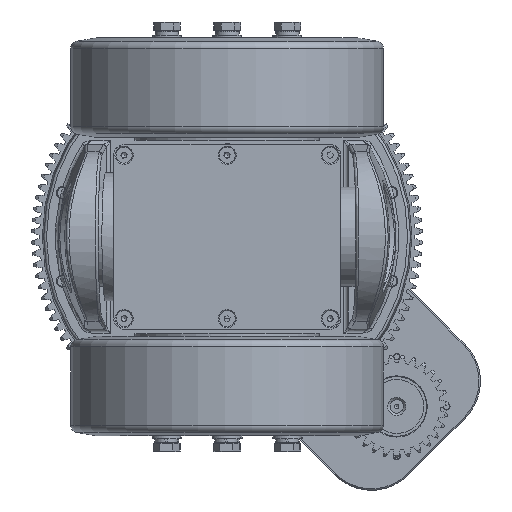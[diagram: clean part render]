
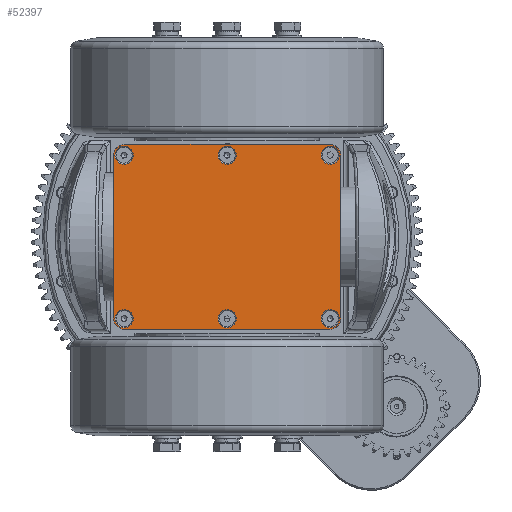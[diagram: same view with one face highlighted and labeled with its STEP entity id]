
A CAD part, front view. The second image highlights one B-rep face of the part: STEP entity #52397.
In plain terms, the highlighted planar face has unit normal (0, -1, 0).
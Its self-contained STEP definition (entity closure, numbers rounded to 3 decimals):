
#370 = DIRECTION ( 'NONE',  ( -1., 0., 0. ) ) ;
#3953 = VECTOR ( 'NONE', #96673, 1000. ) ;
#4928 = CIRCLE ( 'NONE', #24916, 8. ) ;
#5659 = DIRECTION ( 'NONE',  ( 0., -1., 0. ) ) ;
#7559 = FACE_BOUND ( 'NONE', #102786, .T. ) ;
#7885 = ORIENTED_EDGE ( 'NONE', *, *, #106761, .F. ) ;
#8068 = CARTESIAN_POINT ( 'NONE',  ( -152.441, -194., -122. ) ) ;
#9573 = CARTESIAN_POINT ( 'NONE',  ( -151.341, -194., -122.5 ) ) ;
#9729 = CARTESIAN_POINT ( 'NONE',  ( -6.341, -194., -7.5 ) ) ;
#9929 = ORIENTED_EDGE ( 'NONE', *, *, #74789, .F. ) ;
#10204 = DIRECTION ( 'NONE',  ( 0., -1., 0. ) ) ;
#10257 = VERTEX_POINT ( 'NONE', #19419 ) ;
#10969 = EDGE_LOOP ( 'NONE', ( #7885 ) ) ;
#11425 = AXIS2_PLACEMENT_3D ( 'NONE', #67086, #10204, #112444 ) ;
#11621 = EDGE_CURVE ( 'NONE', #39625, #39625, #52633, .T. ) ;
#11915 = CARTESIAN_POINT ( 'NONE',  ( -144.441, -194., -130. ) ) ;
#11933 = FACE_BOUND ( 'NONE', #40123, .T. ) ;
#12195 = ORIENTED_EDGE ( 'NONE', *, *, #27708, .T. ) ;
#12751 = CARTESIAN_POINT ( 'NONE',  ( -78.841, -194., -7.5 ) ) ;
#13074 = EDGE_CURVE ( 'NONE', #45317, #68107, #30176, .T. ) ;
#13728 = EDGE_CURVE ( 'NONE', #10257, #86899, #41633, .T. ) ;
#14366 = CARTESIAN_POINT ( 'NONE',  ( -78.841, -194., -122.5 ) ) ;
#14945 = LINE ( 'NONE', #11915, #54368 ) ;
#15452 = DIRECTION ( 'NONE',  ( 0., -1., 0. ) ) ;
#15874 = AXIS2_PLACEMENT_3D ( 'NONE', #63758, #100655, #73961 ) ;
#17786 = EDGE_CURVE ( 'NONE', #102041, #102041, #119434, .T. ) ;
#18503 = VERTEX_POINT ( 'NONE', #12751 ) ;
#18700 = AXIS2_PLACEMENT_3D ( 'NONE', #27651, #110446, #101571 ) ;
#19273 = ORIENTED_EDGE ( 'NONE', *, *, #13074, .T. ) ;
#19419 = CARTESIAN_POINT ( 'NONE',  ( -0.441, -194., -130. ) ) ;
#24916 = AXIS2_PLACEMENT_3D ( 'NONE', #87920, #88322, #61494 ) ;
#26259 = CARTESIAN_POINT ( 'NONE',  ( -144.441, -194., 0. ) ) ;
#27651 = CARTESIAN_POINT ( 'NONE',  ( -72.441, -194., -122.5 ) ) ;
#27708 = EDGE_CURVE ( 'NONE', #68107, #82952, #64909, .T. ) ;
#27917 = FACE_BOUND ( 'NONE', #43103, .T. ) ;
#28866 = DIRECTION ( 'NONE',  ( -1., 0., 0. ) ) ;
#29030 = VERTEX_POINT ( 'NONE', #53198 ) ;
#29865 = ORIENTED_EDGE ( 'NONE', *, *, #57627, .T. ) ;
#30085 = ORIENTED_EDGE ( 'NONE', *, *, #44016, .T. ) ;
#30176 = CIRCLE ( 'NONE', #104455, 8. ) ;
#30492 = CARTESIAN_POINT ( 'NONE',  ( -144.441, -194., 0. ) ) ;
#31705 = CARTESIAN_POINT ( 'NONE',  ( 7.559, -194., -8. ) ) ;
#32420 = DIRECTION ( 'NONE',  ( 0., -1., 0. ) ) ;
#32751 = CARTESIAN_POINT ( 'NONE',  ( -152.441, -194., -8. ) ) ;
#34316 = EDGE_LOOP ( 'NONE', ( #54523 ) ) ;
#35408 = ORIENTED_EDGE ( 'NONE', *, *, #51214, .F. ) ;
#35580 = ORIENTED_EDGE ( 'NONE', *, *, #11621, .F. ) ;
#35780 = PLANE ( 'NONE',  #15874 ) ;
#37315 = VECTOR ( 'NONE', #96364, 1000. ) ;
#37810 = CARTESIAN_POINT ( 'NONE',  ( 7.559, -194., -122. ) ) ;
#39625 = VERTEX_POINT ( 'NONE', #75572 ) ;
#40123 = EDGE_LOOP ( 'NONE', ( #35580 ) ) ;
#40621 = ORIENTED_EDGE ( 'NONE', *, *, #100375, .T. ) ;
#41633 = CIRCLE ( 'NONE', #106062, 8. ) ;
#42690 = ORIENTED_EDGE ( 'NONE', *, *, #97939, .T. ) ;
#43103 = EDGE_LOOP ( 'NONE', ( #35408 ) ) ;
#43471 = DIRECTION ( 'NONE',  ( 1., 0., 0. ) ) ;
#44016 = EDGE_CURVE ( 'NONE', #61740, #45317, #44668, .T. ) ;
#44547 = AXIS2_PLACEMENT_3D ( 'NONE', #116231, #119049, #61165 ) ;
#44668 = LINE ( 'NONE', #30492, #3953 ) ;
#44828 = DIRECTION ( 'NONE',  ( -1., 0., 0. ) ) ;
#45317 = VERTEX_POINT ( 'NONE', #26259 ) ;
#45465 = CIRCLE ( 'NONE', #84065, 6.4 ) ;
#45561 = EDGE_CURVE ( 'NONE', #86899, #81964, #115240, .T. ) ;
#45631 = DIRECTION ( 'NONE',  ( 0., -1., 0. ) ) ;
#46211 = CIRCLE ( 'NONE', #11425, 8. ) ;
#49987 = DIRECTION ( 'NONE',  ( -1., 0., 0. ) ) ;
#51214 = EDGE_CURVE ( 'NONE', #97329, #97329, #106940, .T. ) ;
#52397 = ADVANCED_FACE ( 'NONE', ( #52745, #27917, #58549, #84623, #11933, #7559, #80314 ), #35780, .T. ) ;
#52511 = EDGE_LOOP ( 'NONE', ( #9929 ) ) ;
#52633 = CIRCLE ( 'NONE', #80158, 6.4 ) ;
#52745 = FACE_BOUND ( 'NONE', #52511, .T. ) ;
#53198 = CARTESIAN_POINT ( 'NONE',  ( -144.441, -194., -130. ) ) ;
#54368 = VECTOR ( 'NONE', #68063, 1000. ) ;
#54523 = ORIENTED_EDGE ( 'NONE', *, *, #88573, .F. ) ;
#57627 = EDGE_CURVE ( 'NONE', #29030, #10257, #14945, .T. ) ;
#58549 = FACE_BOUND ( 'NONE', #10969, .T. ) ;
#61165 = DIRECTION ( 'NONE',  ( -1., 0., 0. ) ) ;
#61494 = DIRECTION ( 'NONE',  ( 1., 0., 0. ) ) ;
#61740 = VERTEX_POINT ( 'NONE', #64676 ) ;
#62274 = VERTEX_POINT ( 'NONE', #9573 ) ;
#62626 = DIRECTION ( 'NONE',  ( -1., 0., 0. ) ) ;
#63758 = CARTESIAN_POINT ( 'NONE',  ( -0.441, -194., -122. ) ) ;
#64676 = CARTESIAN_POINT ( 'NONE',  ( -0.441, -194., 0. ) ) ;
#64909 = LINE ( 'NONE', #69232, #37315 ) ;
#67086 = CARTESIAN_POINT ( 'NONE',  ( -0.441, -194., -8. ) ) ;
#67506 = VECTOR ( 'NONE', #88397, 1000. ) ;
#68063 = DIRECTION ( 'NONE',  ( 1., 0., 0. ) ) ;
#68107 = VERTEX_POINT ( 'NONE', #32751 ) ;
#69232 = CARTESIAN_POINT ( 'NONE',  ( -152.441, -194., -122. ) ) ;
#71285 = CIRCLE ( 'NONE', #18700, 6.4 ) ;
#73961 = DIRECTION ( 'NONE',  ( -1., 0., 0. ) ) ;
#74061 = DIRECTION ( 'NONE',  ( 0., -1., 0. ) ) ;
#74789 = EDGE_CURVE ( 'NONE', #62274, #62274, #45465, .T. ) ;
#75572 = CARTESIAN_POINT ( 'NONE',  ( -6.341, -194., -122.5 ) ) ;
#77783 = EDGE_LOOP ( 'NONE', ( #89772, #85493, #42690, #30085, #19273, #12195, #40621, #29865 ) ) ;
#80158 = AXIS2_PLACEMENT_3D ( 'NONE', #100351, #45631, #44828 ) ;
#80314 = FACE_OUTER_BOUND ( 'NONE', #77783, .T. ) ;
#81312 = ORIENTED_EDGE ( 'NONE', *, *, #17786, .F. ) ;
#81323 = CARTESIAN_POINT ( 'NONE',  ( -0.441, -194., -122. ) ) ;
#81964 = VERTEX_POINT ( 'NONE', #31705 ) ;
#82952 = VERTEX_POINT ( 'NONE', #8068 ) ;
#84065 = AXIS2_PLACEMENT_3D ( 'NONE', #88076, #32420, #49987 ) ;
#84380 = DIRECTION ( 'NONE',  ( 0., -1., 0. ) ) ;
#84623 = FACE_BOUND ( 'NONE', #34316, .T. ) ;
#85493 = ORIENTED_EDGE ( 'NONE', *, *, #45561, .T. ) ;
#86899 = VERTEX_POINT ( 'NONE', #37810 ) ;
#87920 = CARTESIAN_POINT ( 'NONE',  ( -144.441, -194., -122. ) ) ;
#87993 = CARTESIAN_POINT ( 'NONE',  ( 7.559, -194., -122. ) ) ;
#88076 = CARTESIAN_POINT ( 'NONE',  ( -144.941, -194., -122.5 ) ) ;
#88322 = DIRECTION ( 'NONE',  ( 0., -1., 0. ) ) ;
#88397 = DIRECTION ( 'NONE',  ( 0., 0., 1. ) ) ;
#88573 = EDGE_CURVE ( 'NONE', #18503, #18503, #106357, .T. ) ;
#89772 = ORIENTED_EDGE ( 'NONE', *, *, #13728, .T. ) ;
#92854 = AXIS2_PLACEMENT_3D ( 'NONE', #93041, #74061, #28866 ) ;
#93041 = CARTESIAN_POINT ( 'NONE',  ( -72.441, -194., -7.5 ) ) ;
#96364 = DIRECTION ( 'NONE',  ( 0., 0., -1. ) ) ;
#96673 = DIRECTION ( 'NONE',  ( -1., 0., 0. ) ) ;
#97329 = VERTEX_POINT ( 'NONE', #109062 ) ;
#97939 = EDGE_CURVE ( 'NONE', #81964, #61740, #46211, .T. ) ;
#100351 = CARTESIAN_POINT ( 'NONE',  ( 0.059, -194., -122.5 ) ) ;
#100375 = EDGE_CURVE ( 'NONE', #82952, #29030, #4928, .T. ) ;
#100655 = DIRECTION ( 'NONE',  ( 0., -1., 0. ) ) ;
#101143 = AXIS2_PLACEMENT_3D ( 'NONE', #102574, #84380, #370 ) ;
#101571 = DIRECTION ( 'NONE',  ( -1., 0., 0. ) ) ;
#102041 = VERTEX_POINT ( 'NONE', #9729 ) ;
#102574 = CARTESIAN_POINT ( 'NONE',  ( 0.059, -194., -7.5 ) ) ;
#102786 = EDGE_LOOP ( 'NONE', ( #81312 ) ) ;
#104141 = VERTEX_POINT ( 'NONE', #14366 ) ;
#104455 = AXIS2_PLACEMENT_3D ( 'NONE', #107938, #5659, #43471 ) ;
#106062 = AXIS2_PLACEMENT_3D ( 'NONE', #81323, #15452, #62626 ) ;
#106357 = CIRCLE ( 'NONE', #92854, 6.4 ) ;
#106761 = EDGE_CURVE ( 'NONE', #104141, #104141, #71285, .T. ) ;
#106940 = CIRCLE ( 'NONE', #44547, 6.4 ) ;
#107938 = CARTESIAN_POINT ( 'NONE',  ( -144.441, -194., -8. ) ) ;
#109062 = CARTESIAN_POINT ( 'NONE',  ( -151.341, -194., -7.5 ) ) ;
#110446 = DIRECTION ( 'NONE',  ( 0., -1., 0. ) ) ;
#112444 = DIRECTION ( 'NONE',  ( 1., 0., 0. ) ) ;
#115240 = LINE ( 'NONE', #87993, #67506 ) ;
#116231 = CARTESIAN_POINT ( 'NONE',  ( -144.941, -194., -7.5 ) ) ;
#119049 = DIRECTION ( 'NONE',  ( 0., -1., 0. ) ) ;
#119434 = CIRCLE ( 'NONE', #101143, 6.4 ) ;
